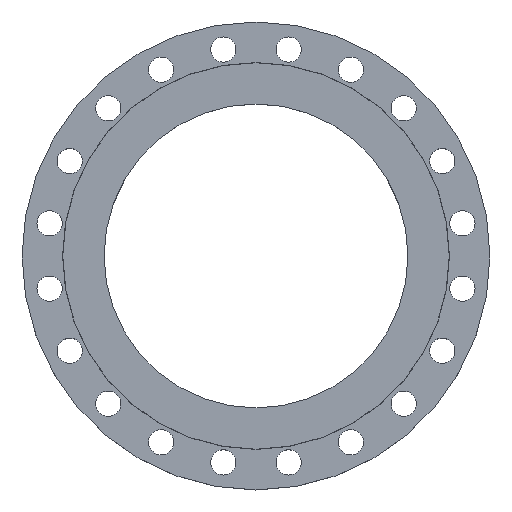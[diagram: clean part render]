
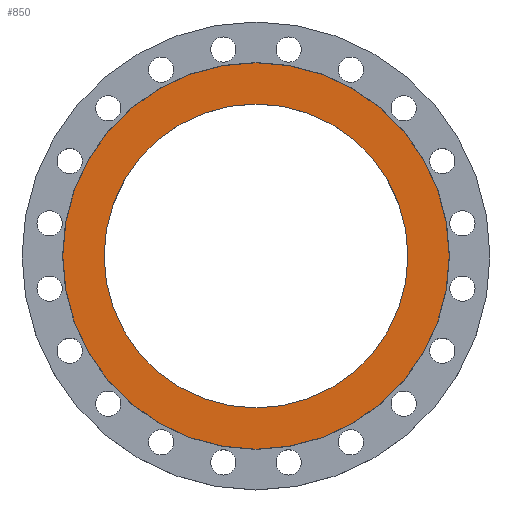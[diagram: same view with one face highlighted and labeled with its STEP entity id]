
A CAD part, top view. The second image highlights one B-rep face of the part: STEP entity #850.
In plain terms, the highlighted planar face has unit normal (0, 0, 1).
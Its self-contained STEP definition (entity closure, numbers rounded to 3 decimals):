
#16 = DIRECTION ( 'NONE',  ( 0., 0., 1. ) ) ;
#24 = CARTESIAN_POINT ( 'NONE',  ( 0., 0., 0. ) ) ;
#46 = CIRCLE ( 'NONE', #1091, 289. ) ;
#107 = EDGE_CURVE ( 'NONE', #501, #961, #702, .T. ) ;
#170 = ORIENTED_EDGE ( 'NONE', *, *, #623, .F. ) ;
#227 = DIRECTION ( 'NONE',  ( 1., 0., 0. ) ) ;
#337 = CARTESIAN_POINT ( 'NONE',  ( 0., 0., 0. ) ) ;
#375 = ORIENTED_EDGE ( 'NONE', *, *, #1135, .F. ) ;
#417 = VERTEX_POINT ( 'NONE', #974 ) ;
#481 = DIRECTION ( 'NONE',  ( 0., 0., 1. ) ) ;
#501 = VERTEX_POINT ( 'NONE', #1369 ) ;
#511 = CARTESIAN_POINT ( 'NONE',  ( 0., 0., 0. ) ) ;
#573 = EDGE_LOOP ( 'NONE', ( #170, #626 ) ) ;
#585 = CARTESIAN_POINT ( 'NONE',  ( -289., 0., 0. ) ) ;
#589 = PLANE ( 'NONE',  #1565 ) ;
#596 = DIRECTION ( 'NONE',  ( -1., 0., 0. ) ) ;
#612 = DIRECTION ( 'NONE',  ( 0., 0., -1. ) ) ;
#623 = EDGE_CURVE ( 'NONE', #417, #1734, #1393, .T. ) ;
#626 = ORIENTED_EDGE ( 'NONE', *, *, #1585, .F. ) ;
#662 = CIRCLE ( 'NONE', #1594, 367.5 ) ;
#702 = CIRCLE ( 'NONE', #1191, 367.5 ) ;
#850 = ADVANCED_FACE ( 'NONE', ( #912, #907 ), #589, .T. ) ;
#907 = FACE_OUTER_BOUND ( 'NONE', #1414, .T. ) ;
#912 = FACE_BOUND ( 'NONE', #573, .T. ) ;
#961 = VERTEX_POINT ( 'NONE', #1149 ) ;
#974 = CARTESIAN_POINT ( 'NONE',  ( 289., 0., 0. ) ) ;
#1071 = ORIENTED_EDGE ( 'NONE', *, *, #107, .F. ) ;
#1088 = DIRECTION ( 'NONE',  ( 1., 0., 0. ) ) ;
#1091 = AXIS2_PLACEMENT_3D ( 'NONE', #337, #1324, #1465 ) ;
#1135 = EDGE_CURVE ( 'NONE', #961, #501, #662, .T. ) ;
#1149 = CARTESIAN_POINT ( 'NONE',  ( -367.5, 0., 0. ) ) ;
#1191 = AXIS2_PLACEMENT_3D ( 'NONE', #1497, #612, #1660 ) ;
#1324 = DIRECTION ( 'NONE',  ( 0., 0., 1. ) ) ;
#1369 = CARTESIAN_POINT ( 'NONE',  ( 367.5, 0., 0. ) ) ;
#1393 = CIRCLE ( 'NONE', #1730, 289. ) ;
#1414 = EDGE_LOOP ( 'NONE', ( #375, #1071 ) ) ;
#1465 = DIRECTION ( 'NONE',  ( 1., 0., 0. ) ) ;
#1497 = CARTESIAN_POINT ( 'NONE',  ( 0., 0., 0. ) ) ;
#1565 = AXIS2_PLACEMENT_3D ( 'NONE', #511, #481, #227 ) ;
#1571 = DIRECTION ( 'NONE',  ( 0., 0., -1. ) ) ;
#1585 = EDGE_CURVE ( 'NONE', #1734, #417, #46, .T. ) ;
#1594 = AXIS2_PLACEMENT_3D ( 'NONE', #1717, #1571, #596 ) ;
#1660 = DIRECTION ( 'NONE',  ( -1., 0., 0. ) ) ;
#1717 = CARTESIAN_POINT ( 'NONE',  ( 0., 0., 0. ) ) ;
#1730 = AXIS2_PLACEMENT_3D ( 'NONE', #24, #16, #1088 ) ;
#1734 = VERTEX_POINT ( 'NONE', #585 ) ;
